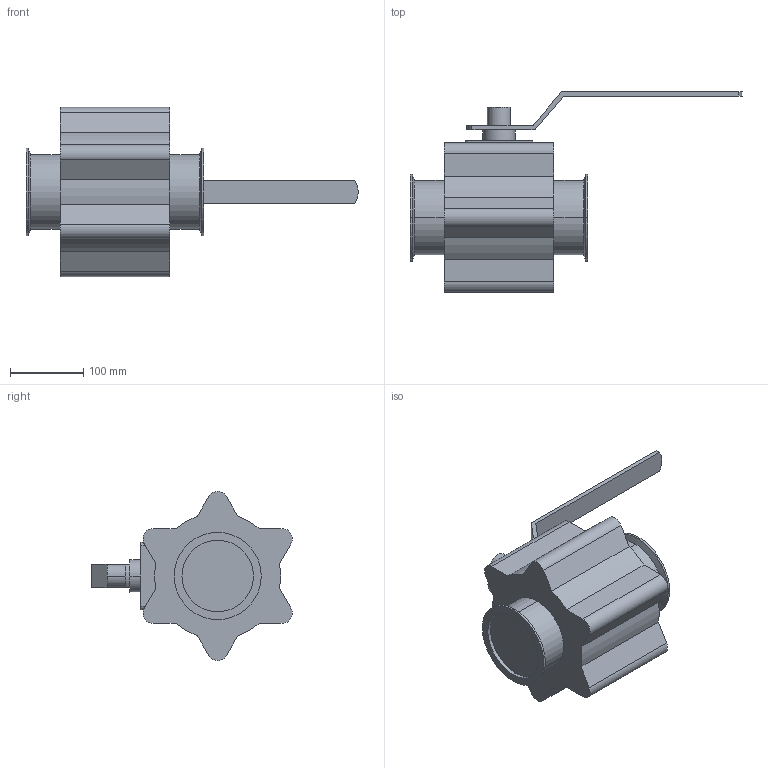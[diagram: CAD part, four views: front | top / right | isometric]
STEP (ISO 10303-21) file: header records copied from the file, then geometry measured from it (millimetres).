
FILE_DESCRIPTION(('Creo Elements/Direct Modeling STEP Export'),'2;1');
FILE_NAME('BLV1-4T-H-12CL.stp','2019-05-10T 8:29:39',(''),(''),'Creo Elements/Direct Modeling STEP processor for AP214 (Solid Model)','Creo Elements/Direct Modeling 19.0F 14-Feb-2017 (C) Parametric Technology GmbH','');
FILE_SCHEMA(('AUTOMOTIVE_DESIGN { 1 0 10303 214 1 1 1 1 }'));
Length unit declared in the file: millimetre
Products named in the file (2): BLV1-4T-H-12CL
Assembly tree (1 placements, depth 2):
  BLV1-4T-H-12CL
    BLV1-4T-H-12CL
Bounding box: 453.38 x 273.9 x 231 mm (x, y, z)
Volume: 5350102.2 mm3; surface area: 249533.4 mm2
Topology: 1 solids, 1 shells, 77 faces, 204 edges, 134 vertices
Faces by surface type: plane 38, cylinder 35, cone 4
Entity records: 2308 total; most frequent: CARTESIAN_POINT 426, ORIENTED_EDGE 408, DIRECTION 368, EDGE_CURVE 204, VERTEX_POINT 134, AXIS2_PLACEMENT_3D 128, VECTOR 112, LINE 112
